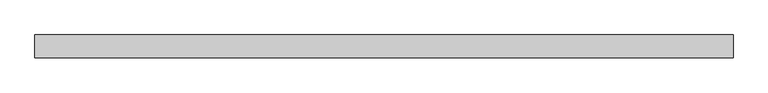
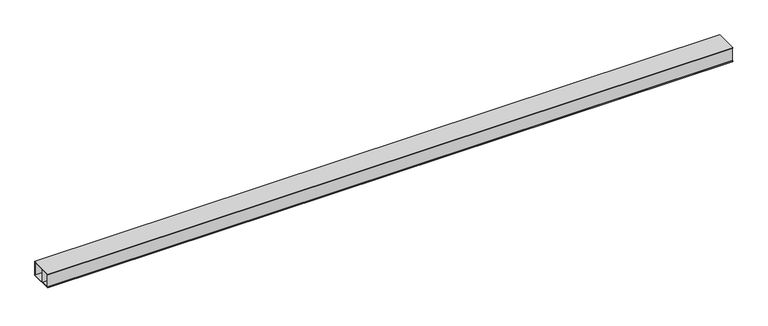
"""IFC4 building model written with IfcOpenShell, lengths in millimetres: light fixture geometry, Lighting-Wall-Betacalco-Block-Straight : BLKW-DT1-PW01-TR01-SL04-EP01-LP020-CR80-CTA40."""

from ifc_helpers import new_model, si_unit, frame, origin, place, context, project, spatial, polyline, outline, extrude, source, transform, mapped, element, save


def light_fixture_3d811801(model_context):
    return source(origin(), model_context, "Body", "SweptSolid", [
        extrude(outline(polyline([(80.264, 5.867391), (80.264, 11.734422), (82.042, 11.734422), (82.042, 4.6224219), (69.3420002, 0.0), (50.292, 0.0), (50.292, 10.642789), (56.642, 12.954), (57.2501118, 11.2832265), (52.07, 9.39782), (52.07, 1.778), (69.0284906, 1.778), (80.264, 5.867391)])), frame((1385.09375, 0.0, 0.0), z_axis=(1.0, 0.0, 0.0), x_axis=(0.0, 1.0, 0.0)), (0.0, 0.0, 1.0), 76.2),
        extrude(outline(polyline([(88.3840625, 3.3774529), (82.0340625, 1.0662419), (81.4259507, 2.7370154), (86.6060625, 4.6224219), (86.6060625, 12.2422419), (69.6475719, 12.2422419), (58.4120625, 8.1528509), (58.4120625, 2.2858199), (56.6340625, 2.2858199), (56.6340625, 9.3978199), (69.3340625, 14.0202419), (88.3840625, 14.0202419), (88.3840625, 3.3774529)])), frame((1385.09375, 0.0, 0.0), z_axis=(1.0, 0.0, 0.0), x_axis=(0.0, 1.0, 0.0)), (0.0, 0.0, 1.0), 76.2),
        extrude(outline(polyline([(80.264, 5.867391), (80.264, 11.734422), (82.042, 11.734422), (82.042, 4.6224219), (69.3420002, 0.0), (50.292, 0.0), (50.292, 10.642789), (56.642, 12.954), (57.2501118, 11.2832265), (52.07, 9.39782), (52.07, 1.778), (69.0284906, 1.778), (80.264, 5.867391)])), frame((-1461.29375, 0.0, 0.0), z_axis=(1.0, 0.0, 0.0), x_axis=(0.0, 1.0, 0.0)), (0.0, 0.0, 1.0), 76.2),
        extrude(outline(polyline([(88.3840625, 3.3774529), (82.0340625, 1.0662419), (81.4259507, 2.7370154), (86.6060625, 4.6224219), (86.6060625, 12.2422419), (69.6475719, 12.2422419), (58.4120625, 8.1528509), (58.4120625, 2.2858199), (56.6340625, 2.2858199), (56.6340625, 9.3978199), (69.3340625, 14.0202419), (88.3840625, 14.0202419), (88.3840625, 3.3774529)])), frame((-1461.29375, 0.0, 0.0), z_axis=(1.0, 0.0, 0.0), x_axis=(0.0, 1.0, 0.0)), (0.0, 0.0, 1.0), 76.2),
        extrude(outline(polyline([(1562.89375, 5.2904412), (1562.89375, 3.7029412), (-1562.89375, 3.7029412), (-1562.89375, 5.2904412), (1562.89375, 5.2904412)])), frame((0.0, 0.0, 16.5298437), z_axis=(0.0, 0.0, 1.0), x_axis=(1.0, 0.0, 0.0)), (0.0, 0.0, 1.0), 61.595),
        extrude(outline(polyline([(1562.89375, 43.340087), (1562.89375, 41.752587), (-1562.89375, 41.752587), (-1562.89375, 43.340087), (1562.89375, 43.340087)])), frame((0.0, 0.0, 16.5298437), z_axis=(0.0, 0.0, 1.0), x_axis=(1.0, 0.0, 0.0)), (0.0, 0.0, 1.0), 61.595),
        extrude(outline(polyline([(1562.89375, 101.6), (1562.89375, 100.0125), (-1562.89375, 100.0125), (-1562.89375, 101.6), (1562.89375, 101.6)])), frame((0.0, 0.0, 16.5298437), z_axis=(0.0, 0.0, 1.0), x_axis=(1.0, 0.0, 0.0)), (0.0, 0.0, 1.0), 61.595),
        extrude(outline(polyline([(1562.89375, 101.6), (1562.89375, 0.0), (-1562.89375, 0.0), (-1562.89375, 101.6), (1562.89375, 101.6)])), frame((0.0, 0.0, 13.9898438), z_axis=(0.0, 0.0, 1.0), x_axis=(1.0, 0.0, 0.0)), (0.0, 0.0, 1.0), 2.54),
        extrude(outline(polyline([(1562.89375, 101.6), (1562.89375, 0.0), (-1562.89375, 0.0), (-1562.89375, 101.6), (1562.89375, 101.6)])), frame((0.0, 0.0, 78.1248438), z_axis=(0.0, 0.0, 1.0), x_axis=(1.0, 0.0, 0.0)), (0.0, 0.0, 1.0), 2.54),
    ])


if __name__ == "__main__":
    model = new_model("IFC4")
    model_context = context("Model", 3, world=origin())
    ifc_project = project(units=[si_unit("LENGTHUNIT", "METRE", prefix="MILLI")], contexts=[model_context])
    site = spatial("IfcSite", under=ifc_project)
    building = spatial("IfcBuilding", under=site)
    placement = place(None, origin())
    light_fixture_shape = light_fixture_3d811801(model_context)
    element("IfcLightFixture", 1, ObjectType="Lighting-Wall-Betacalco-Block-Straight : BLKW-DT1-PW01-TR01-SL04-EP01-LP020-CR80-CTA40", at=placement, inside=building, context=model_context, shape_type="MappedRepresentation", body=[
        mapped(light_fixture_shape, transform((0.0, 0.0, 0.0), x_axis=(1.0, 0.0, 0.0), y_axis=(0.0, 1.0, 0.0), z_axis=(0.0, 0.0, 1.0))),
    ])
    save(model, "model.ifc")
